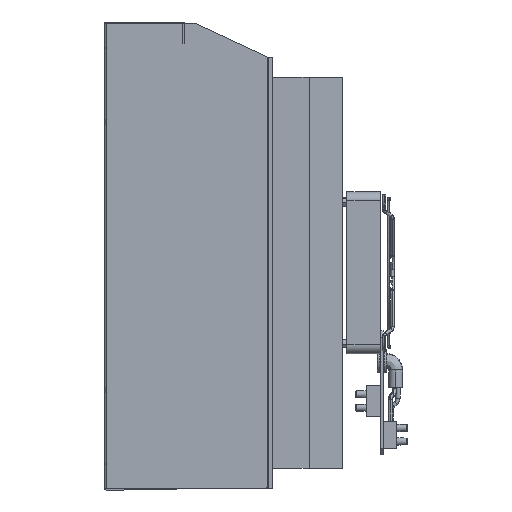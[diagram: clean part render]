
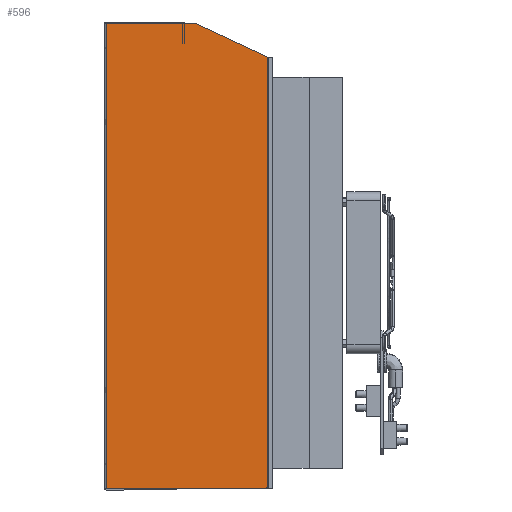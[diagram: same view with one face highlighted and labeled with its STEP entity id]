
A CAD part, left-side view. The second image highlights one B-rep face of the part: STEP entity #596.
In plain terms, the highlighted planar face has unit normal (-1, 0, 0).
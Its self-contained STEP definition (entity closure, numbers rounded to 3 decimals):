
#596=ADVANCED_FACE('',(#1419),#11000,.T.);
#1419=FACE_OUTER_BOUND('',#2234,.T.);
#2234=EDGE_LOOP('',(#5211,#5212,#5213,#5214,#5215,#5216));
#5211=ORIENTED_EDGE('',*,*,#7136,.T.);
#5212=ORIENTED_EDGE('',*,*,#7212,.F.);
#5213=ORIENTED_EDGE('',*,*,#7140,.F.);
#5214=ORIENTED_EDGE('',*,*,#7171,.F.);
#5215=ORIENTED_EDGE('',*,*,#7137,.T.);
#5216=ORIENTED_EDGE('',*,*,#7126,.F.);
#7126=EDGE_CURVE('',#10199,#10196,#8958,.T.);
#7136=EDGE_CURVE('',#10199,#10203,#8965,.T.);
#7137=EDGE_CURVE('',#10204,#10196,#8966,.T.);
#7140=EDGE_CURVE('',#10207,#10206,#8969,.T.);
#7171=EDGE_CURVE('',#10204,#10207,#8990,.T.);
#7212=EDGE_CURVE('',#10206,#10203,#9021,.T.);
#8958=B_SPLINE_CURVE_WITH_KNOTS('',1,(#29522,#29523),.UNSPECIFIED.,.F.,.F.,
(2,2),(0.,345.),.UNSPECIFIED.);
#8965=B_SPLINE_CURVE_WITH_KNOTS('',1,(#29545,#29546),.UNSPECIFIED.,.F.,.F.,
(2,2),(0.,117.9),.UNSPECIFIED.);
#8966=B_SPLINE_CURVE_WITH_KNOTS('',1,(#29547,#29548),.UNSPECIFIED.,.F.,.F.,
(2,2),(0.,66.287),.UNSPECIFIED.);
#8969=B_SPLINE_CURVE_WITH_KNOTS('',1,(#29553,#29554),.UNSPECIFIED.,.F.,.F.,
(2,2),(-318.,0.),.UNSPECIFIED.);
#8990=B_SPLINE_CURVE_WITH_KNOTS('',1,(#29625,#29626),.UNSPECIFIED.,.F.,.F.,
(2,2),(-59.155,0.),.UNSPECIFIED.);
#9021=B_SPLINE_CURVE_WITH_KNOTS('',1,(#29717,#29718),.UNSPECIFIED.,.F.,.F.,
(2,2),(-2.828,0.),.UNSPECIFIED.);
#10196=VERTEX_POINT('',#29419);
#10199=VERTEX_POINT('',#29422);
#10203=VERTEX_POINT('',#29426);
#10204=VERTEX_POINT('',#29427);
#10206=VERTEX_POINT('',#29429);
#10207=VERTEX_POINT('',#29430);
#11000=PLANE('',#11361);
#11361=AXIS2_PLACEMENT_3D('',#29386,#11638,$);
#11638=DIRECTION('',(-1.,0.,0.));
#29386=CARTESIAN_POINT('',(-156.25,131.891,379.501));
#29419=CARTESIAN_POINT('',(-156.25,119.9,345.));
#29422=CARTESIAN_POINT('',(-156.25,119.9,0.));
#29426=CARTESIAN_POINT('',(-156.25,2.,0.));
#29427=CARTESIAN_POINT('',(-156.25,53.613,345.));
#29429=CARTESIAN_POINT('',(-156.25,0.,2.));
#29430=CARTESIAN_POINT('',(-156.25,0.,320.));
#29522=CARTESIAN_POINT('',(-156.25,119.9,0.));
#29523=CARTESIAN_POINT('',(-156.25,119.9,345.));
#29545=CARTESIAN_POINT('',(-156.25,119.9,0.));
#29546=CARTESIAN_POINT('',(-156.25,2.,0.));
#29547=CARTESIAN_POINT('',(-156.25,53.613,345.));
#29548=CARTESIAN_POINT('',(-156.25,119.9,345.));
#29553=CARTESIAN_POINT('',(-156.25,0.,320.));
#29554=CARTESIAN_POINT('',(-156.25,0.,2.));
#29625=CARTESIAN_POINT('',(-156.25,53.613,345.));
#29626=CARTESIAN_POINT('',(-156.25,0.,320.));
#29717=CARTESIAN_POINT('',(-156.25,0.,2.));
#29718=CARTESIAN_POINT('',(-156.25,2.,0.));
